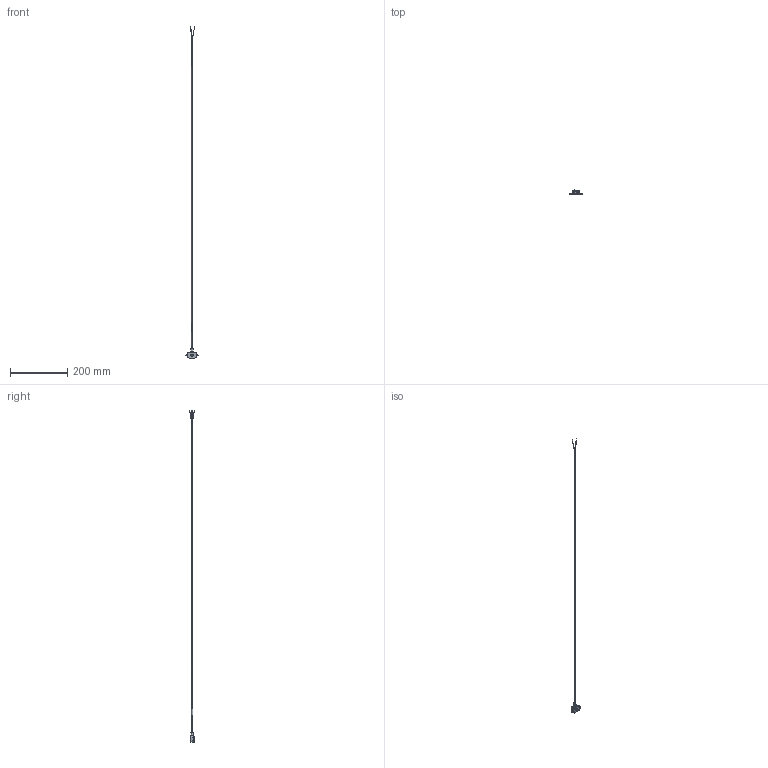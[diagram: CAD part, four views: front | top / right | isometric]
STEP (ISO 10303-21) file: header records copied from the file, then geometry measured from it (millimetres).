
FILE_DESCRIPTION (( 'STEP AP203' ), '1' );
FILE_NAME ('F02U.V0U.197-90_PSA-N_Flying_Lead.STP', '2022-02-04T15:22:56', ( '' ), ( '' ), 'SwSTEP 2.0', 'SolidWorks 2021', '' );
FILE_SCHEMA (( 'CONFIG_CONTROL_DESIGN' ));
Length unit declared in the file: millimetre
Products named in the file (15): F02U.00U.049-01_Strain_Releif; Label; O-Ring_1.5mm_CS_4.5mm_ID_Viton; F02U.B0U.026-01_PCBA; F02U.00U.066-02_2mm_PSA-N_HOUSING; Cable; 203W301-25-G02-0_Heat_Shrink_Boot_Straight_Lipped; SHCS_4-40x0.188in_Hex_Drive_SS; F02U.00U.067-01_Lid; F02U.V0U.197-90_PSA-N_Flying_Lead; DR25_Heatshrink; FHCS_4-40x0.375in_Hex_Drive_SS; Label_Protector; PSA-5V_Base_Sensor_V2_Exploded view
Assembly tree (16 placements, depth 3):
  F02U.V0U.197-90_PSA-N_Flying_Lead
    PSA-5V_Base_Sensor_V2_Exploded view
      F02U.00U.066-02_2mm_PSA-N_HOUSING
      F02U.B0U.026-01_PCBA
      SHCS_4-40x0.188in_Hex_Drive_SS  x2
      F02U.00U.049-01_Strain_Releif
      F02U.00U.067-01_Lid
      FHCS_4-40x0.375in_Hex_Drive_SS  x2
      O-Ring_1.5mm_CS_4.5mm_ID_Viton
    Cable
    Label
      Label
      Label_Protector
    DR25_Heatshrink
    203W301-25-G02-0_Heat_Shrink_Boot_Straight_Lipped
Bounding box: 42.02 x 16.87 x 1160.32 mm (x, y, z)
Volume: 16525.5 mm3; surface area: 37112 mm2
Topology: 16 solids, 16 shells, 836 faces, 1940 edges, 1137 vertices
Faces by surface type: plane 307, cylinder 274, cone 135, bspline 79, torus 33, sphere 8
Entity records: 24492 total; most frequent: CARTESIAN_POINT 5653, DIRECTION 3746, ORIENTED_EDGE 3514, EDGE_CURVE 1757, AXIS2_PLACEMENT_3D 1415, VERTEX_POINT 1046, LINE 916, VECTOR 916
